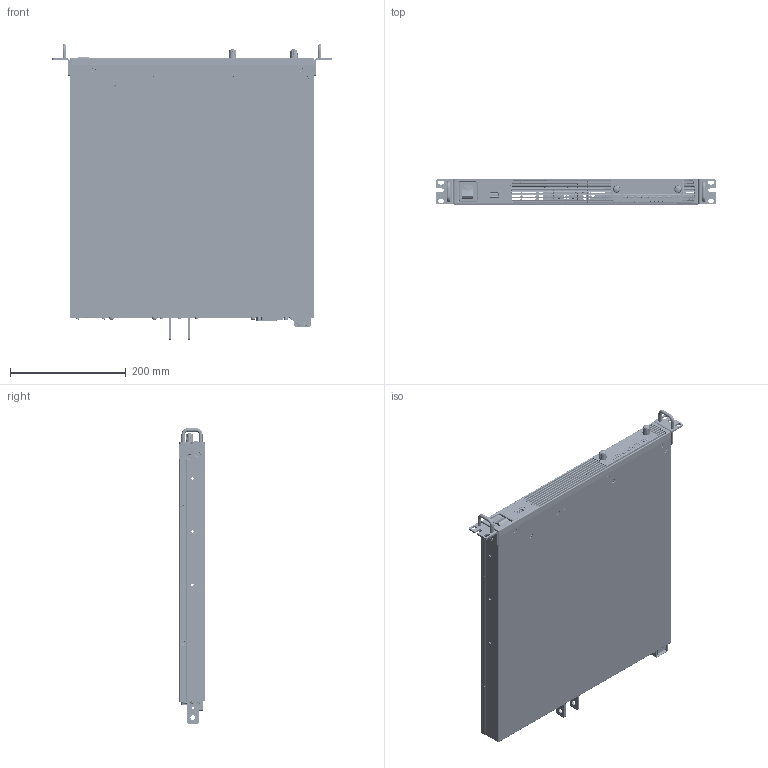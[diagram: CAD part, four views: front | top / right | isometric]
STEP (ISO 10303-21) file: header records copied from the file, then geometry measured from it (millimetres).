
FILE_DESCRIPTION((''),'2;1');
FILE_NAME('1U-POWER_ASM_ASM','2019-03-26T16:41:34',('benny_chen'),(''),'CREO PARAMETRIC BY PTC INC, 2018100','CREO PARAMETRIC BY PTC INC, 2018100','');
FILE_SCHEMA(('CONFIG_CONTROL_DESIGN'));
Products named in the file (79): 1U-POWER_F_ASM-C_SKEL; 63FP-SG101501; 51SU-60250301; TONGDING-3D6XM2X4L; 1042-SULV0101_ASM; 62SU-200FP101; 62SU-200FP101_ASM; 1UP-HP-FP-ASM-C_ASM; 51SU-60250201; 1042-SULV0201_ASM; 1U-POWER_MODEL_NP-C; 5005-130G0101; ENCODE_SW_L25-ALPS; PSU_DISPLAY-P-V2-C_ASM; PSU-DISPLAY_ASM; 57RB-40G10901; 62SU-200HP701; A116-1229-USB01; FRP10; SCREW-4-40-8D3L; PSU-HP-USB-HOLD_ASM; PSU-LEM-91; 3203-01200601; 5812-21331101; PMS-W-3X6; 1U-POWER_F_ASM-C_ASM; 1U-POWER_LO; BSO-M3-5; S-M4-1_NUT; S-M5-1_NUT; S-M3_5-1_NUT; FH-M3-10; BSO-M3-14; 62SU-200LO1B1_ASM; _1703034; 1UP-3PIN-1703034_ASM; 62SU-200HP201; 1U-POWER_PFC-BOARD_PCB_ASM_ASM; RJ-45_4445-2000101; 44UB-K0400101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
Assembly tree (170 placements, depth 6):
  1U-POWER_ASM_ASM
    1U-POWER_F_ASM-C_ASM
      1U-POWER_F_ASM-C_SKEL
      1042-SULV0201_ASM
        1042-SULV0101_ASM
          63FP-SG101501
          51SU-60250301
          TONGDING-3D6XM2X4L  x4
        1UP-HP-FP-ASM-C_ASM
          62SU-200FP101_ASM
            62SU-200FP101
        51SU-60250201
      1U-POWER_MODEL_NP-C
      5005-130G0101  x2
      PSU-DISPLAY_ASM
        PSU_DISPLAY-P-V2-C_ASM
          ENCODE_SW_L25-ALPS  x2
      57RB-40G10901
      PSU-HP-USB-HOLD_ASM
        62SU-200HP701
        A116-1229-USB01
        FRP10
        SCREW-4-40-8D3L  x2
      PSU-LEM-91
      3203-01200601
      5812-21331101
      PMS-W-3X6  x4
    1U-POWER_LO_ASM_ASM
      62SU-200LO1B1_ASM
        1U-POWER_LO
        BSO-M3-5  x25
        S-M4-1_NUT  x4
        S-M5-1_NUT  x6
        S-M3_5-1_NUT  x3
        FH-M3-10
        BSO-M3-14  x2
      1U-POWER_PFC-BOARD_PCB_ASM_ASM
        1UP-3PIN-1703034_ASM
          _1703034  x3
        62SU-200HP201
      1U-POWER_CONTROL-BOARD_PCB_ASM_ASM
        RJ-45_4445-2000101
        44UB-K0400101
        D-SUB_40DS-22500801
        ME030-38105T
        RJ-45-TRP-C-6605814
      1UP-RP-S1-1_ASM-1_ASM
        62SU-200SC501
        62SU-200CP401_ASM
          1UP-CU-5-2
          S-M5-1_NUT  x2
        62SU-200CP501_ASM
          1UP-CU-6-2
          S-M5-1_NUT  x2
        63SP-NB100101  x2
        PMS-W-3X6
      PSU-GPIB-PCB-ASM_ASM
        PSU-GPIB-PCB
        SOCKET-GPIB
        BMS-LOCK-3X6  x2
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Bounding box: 483 x 43.6 x 510.95 mm (x, y, z)
Volume: 746097.7 mm3; surface area: 1444813.4 mm2
Topology: 152 solids, 159 shells, 10297 faces, 25963 edges, 16369 vertices
Faces by surface type: plane 5602, cylinder 2846, cone 901, bspline 632, torus 174, sphere 124, extrusion 18
Entity records: 212822 total; most frequent: CARTESIAN_POINT 50520, ORIENTED_EDGE 33480, DIRECTION 33089, EDGE_CURVE 16761, AXIS2_PLACEMENT_3D 11066, VECTOR 10957, LINE 10939, VERTEX_POINT 10595
